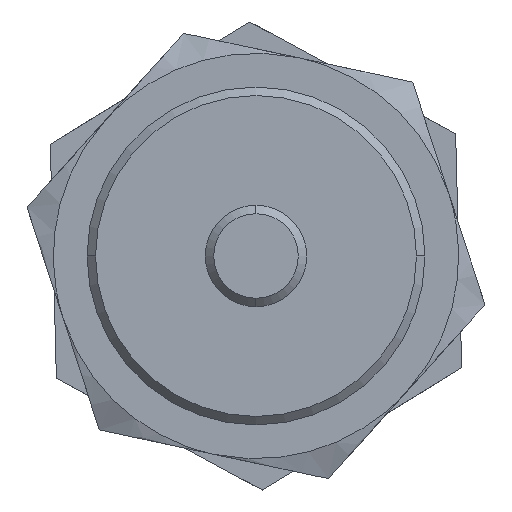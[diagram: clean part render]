
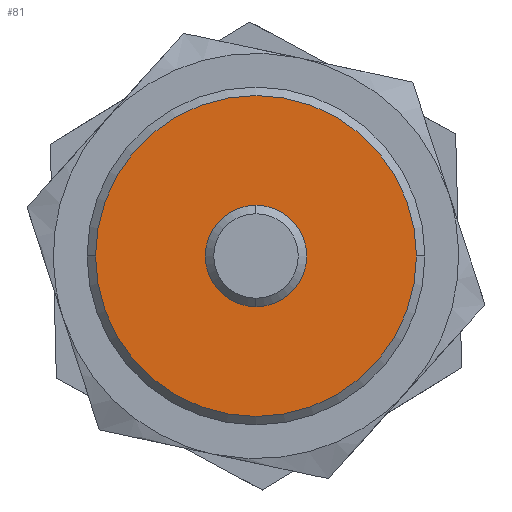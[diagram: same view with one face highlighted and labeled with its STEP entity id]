
A CAD part, left-side view. The second image highlights one B-rep face of the part: STEP entity #81.
In plain terms, the highlighted planar face has unit normal (-1, 0, 0).
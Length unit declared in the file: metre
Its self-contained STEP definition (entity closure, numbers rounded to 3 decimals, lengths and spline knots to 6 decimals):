
#27 = AXIS2_PLACEMENT_3D ( 'NONE', #703, #29, #816 ) ;
#28 = CARTESIAN_POINT ( 'NONE',  ( 0.016, 0., 0. ) ) ;
#29 = DIRECTION ( 'NONE',  ( 1., 0., 0. ) ) ;
#37 = VERTEX_POINT ( 'NONE', #323 ) ;
#81 = ADVANCED_FACE ( 'NONE', ( #404, #975 ), #102, .F. ) ;
#102 = PLANE ( 'NONE',  #437 ) ;
#129 = DIRECTION ( 'NONE',  ( 0., 0., -1. ) ) ;
#138 = DIRECTION ( 'NONE',  ( 1., 0., 0. ) ) ;
#184 = VERTEX_POINT ( 'NONE', #801 ) ;
#195 = AXIS2_PLACEMENT_3D ( 'NONE', #341, #349, #456 ) ;
#206 = EDGE_CURVE ( 'NONE', #37, #605, #918, .T. ) ;
#212 = AXIS2_PLACEMENT_3D ( 'NONE', #28, #138, #1386 ) ;
#213 = ORIENTED_EDGE ( 'NONE', *, *, #628, .F. ) ;
#229 = EDGE_CURVE ( 'NONE', #1217, #184, #651, .T. ) ;
#254 = DIRECTION ( 'NONE',  ( 1., 0., 0. ) ) ;
#323 = CARTESIAN_POINT ( 'NONE',  ( 0.016, -0.0095, 0. ) ) ;
#341 = CARTESIAN_POINT ( 'NONE',  ( 0.016, 0., 0. ) ) ;
#349 = DIRECTION ( 'NONE',  ( 1., 0., 0. ) ) ;
#404 = FACE_BOUND ( 'NONE', #586, .T. ) ;
#437 = AXIS2_PLACEMENT_3D ( 'NONE', #472, #254, #129 ) ;
#456 = DIRECTION ( 'NONE',  ( 0., -1., 0. ) ) ;
#462 = CARTESIAN_POINT ( 'NONE',  ( 0.016, 0., 0. ) ) ;
#472 = CARTESIAN_POINT ( 'NONE',  ( 0.016, -0.009614, 0.009614 ) ) ;
#507 = CARTESIAN_POINT ( 'NONE',  ( 0.016, -0.003, 0. ) ) ;
#570 = DIRECTION ( 'NONE',  ( 0., 1., 0. ) ) ;
#586 = EDGE_LOOP ( 'NONE', ( #984, #1314 ) ) ;
#605 = VERTEX_POINT ( 'NONE', #676 ) ;
#628 = EDGE_CURVE ( 'NONE', #605, #37, #1225, .T. ) ;
#651 = CIRCLE ( 'NONE', #195, 0.003 ) ;
#676 = CARTESIAN_POINT ( 'NONE',  ( 0.016, 0.0095, 0. ) ) ;
#703 = CARTESIAN_POINT ( 'NONE',  ( 0.016, 0., 0. ) ) ;
#757 = CIRCLE ( 'NONE', #27, 0.003 ) ;
#801 = CARTESIAN_POINT ( 'NONE',  ( 0.016, 0.003, 0. ) ) ;
#816 = DIRECTION ( 'NONE',  ( 0., -1., 0. ) ) ;
#817 = EDGE_CURVE ( 'NONE', #184, #1217, #757, .T. ) ;
#918 = CIRCLE ( 'NONE', #212, 0.0095 ) ;
#975 = FACE_OUTER_BOUND ( 'NONE', #1094, .T. ) ;
#984 = ORIENTED_EDGE ( 'NONE', *, *, #229, .T. ) ;
#1094 = EDGE_LOOP ( 'NONE', ( #213, #1352 ) ) ;
#1102 = AXIS2_PLACEMENT_3D ( 'NONE', #462, #1199, #570 ) ;
#1199 = DIRECTION ( 'NONE',  ( 1., 0., 0. ) ) ;
#1217 = VERTEX_POINT ( 'NONE', #507 ) ;
#1225 = CIRCLE ( 'NONE', #1102, 0.0095 ) ;
#1314 = ORIENTED_EDGE ( 'NONE', *, *, #817, .T. ) ;
#1352 = ORIENTED_EDGE ( 'NONE', *, *, #206, .F. ) ;
#1386 = DIRECTION ( 'NONE',  ( 0., 1., 0. ) ) ;
